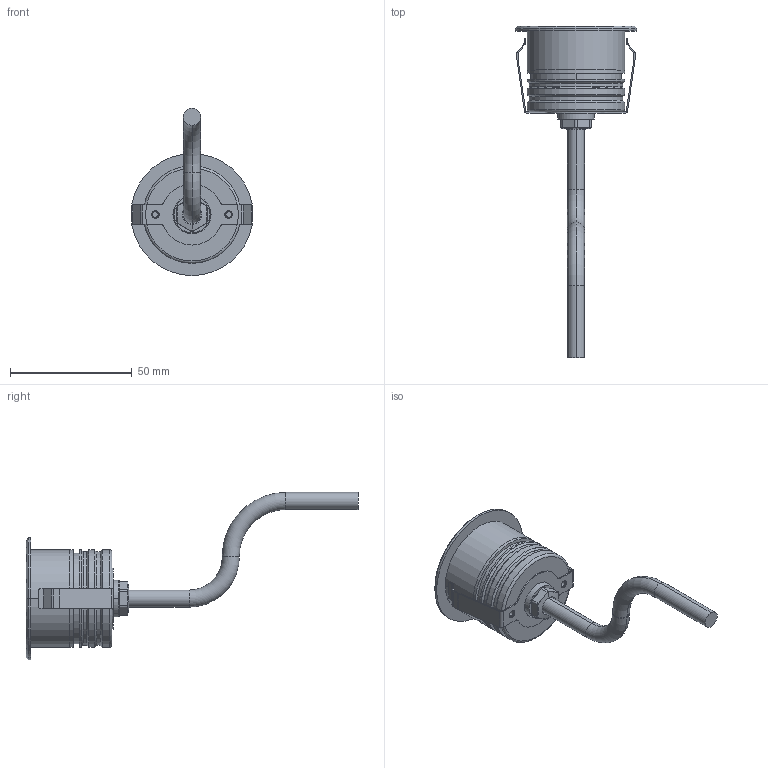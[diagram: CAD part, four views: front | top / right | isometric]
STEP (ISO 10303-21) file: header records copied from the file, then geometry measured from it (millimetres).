
FILE_DESCRIPTION((''),'2;1');
FILE_NAME('2XA-ZJ_ASM','2024-08-28T',('C027'),(''),'CREO PARAMETRIC BY PTC INC, 2014500','CREO PARAMETRIC BY PTC INC, 2014500','');
FILE_SCHEMA(('CONFIG_CONTROL_DESIGN'));
Length unit declared in the file: millimetre
Products named in the file (10): 2XA-DT; 2XA-DP; 2XA-O-XING-QUAN; M12A; 2XA-MG; 2XA-BO-LI; XJX-1; 2XA-KA-HUANG; JIAOSAI; 2XA-ZJ_ASM
Assembly tree (9 placements, depth 2):
  2XA-ZJ_ASM
    2XA-DT
    2XA-DP
    2XA-O-XING-QUAN
    M12A
    2XA-MG
    2XA-BO-LI
    XJX-1
    2XA-KA-HUANG
    JIAOSAI
Bounding box: 50 x 136.07 x 68.5 mm (x, y, z)
Volume: 39341.8 mm3; surface area: 26268.4 mm2
Topology: 9 solids, 9 shells, 319 faces, 791 edges, 507 vertices
Faces by surface type: cylinder 144, plane 81, torus 39, bspline 36, cone 17, sphere 2
Entity records: 16787 total; most frequent: CARTESIAN_POINT 8962, DIRECTION 1648, ORIENTED_EDGE 1582, EDGE_CURVE 791, AXIS2_PLACEMENT_3D 675, VERTEX_POINT 507, CIRCLE 373, EDGE_LOOP 354
